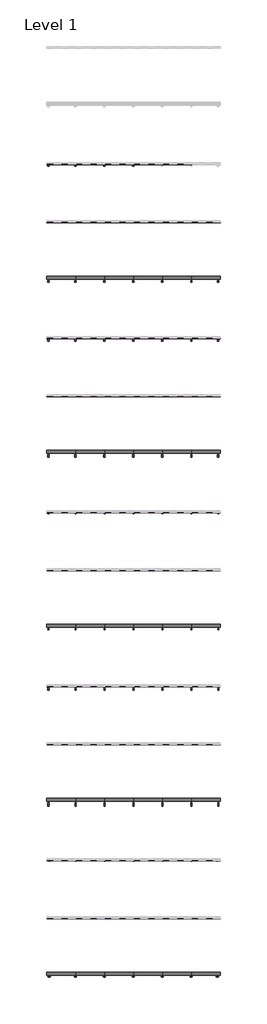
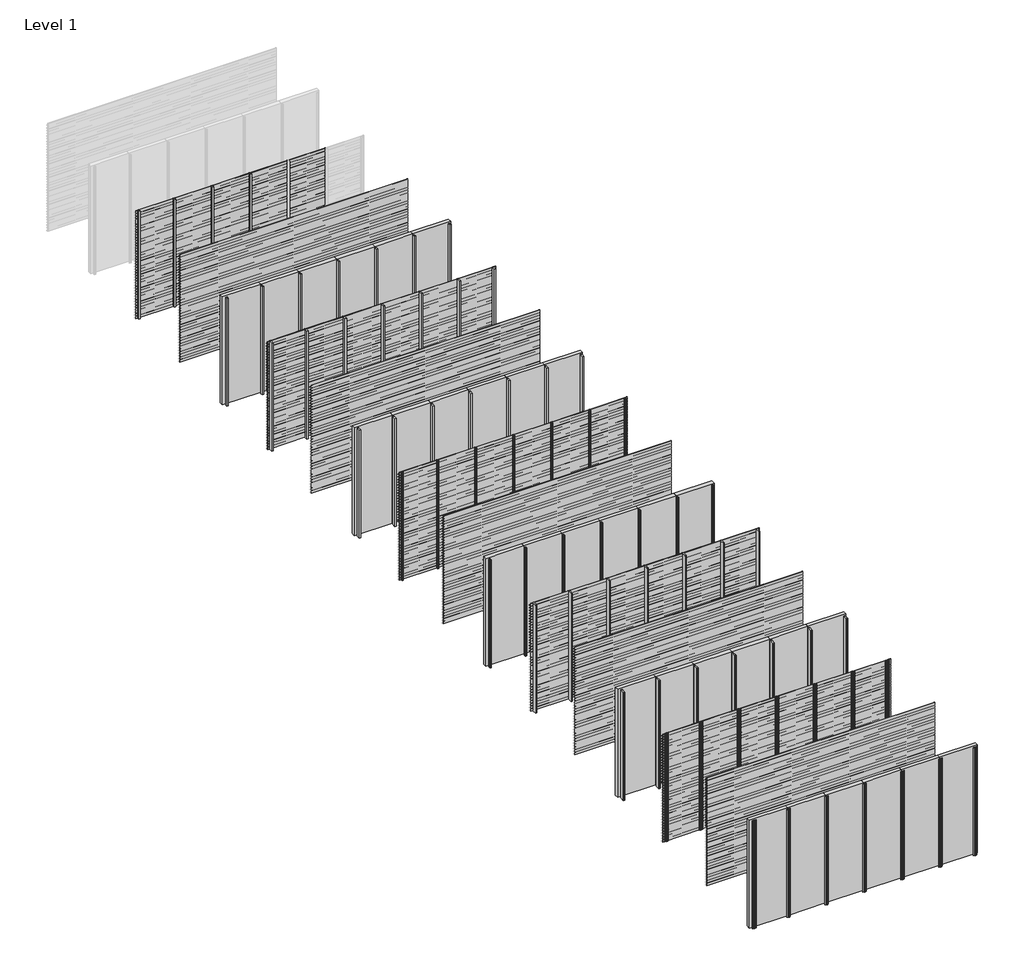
# One storey, part 1 of 35: 67 members, 64 plates.
"""IFC4 building model written with IfcOpenShell, lengths in millimetres."""

from ifc_helpers import new_model, si_unit, origin, origin_with_axes, place, context, project, spatial, polyline, outline, extrude, transform, mapped, element, save
from components import rectangular_mullion_6cf2c509, rectangular_mullion_8b77bd57, rectangular_mullion_2c867e25, rectangular_mullion_7803f5c4, rectangular_mullion_82152e2f, rectangular_mullion_9b796d85, rectangular_mullion_dfb17e98, rectangular_mullion_6132f1f1, rectangular_mullion_8f153c19, rectangular_mullion_5b30f3fd, rectangular_mullion_5e0e8e0a, rectangular_mullion_d2d38772, rectangular_mullion_efb80f74, rectangular_mullion_aaa1fb1b, rectangular_mullion_ea9d012c, empty_system_panel_empty_4f94343c

model = new_model("IFC4")

# Units and contexts
model_context = context("Model", 3, world=origin())
ifc_project = project(units=[si_unit("LENGTHUNIT", "METRE", prefix="MILLI")], contexts=[model_context])

# Site, building, storey
site = spatial("IfcSite", under=ifc_project)
building = spatial("IfcBuilding", under=site)
storey = spatial("IfcBuildingStorey", under=building, Name="Level 1", Elevation=0.0)

# Members
placement = place(None, origin())
rectangular_mullion_shape = rectangular_mullion_6cf2c509(model_context)
element("IfcMember", 1, ObjectType="Rectangular Mullion : NLRS_21_CWM_drager SD.054_Storax", at=placement, inside=storey, context=model_context, shape_type="MappedRepresentation", body=[
    mapped(rectangular_mullion_shape, transform((3000.0, -30000.0, 0.0), x_axis=(-1.0, 0.0, 0.0), y_axis=(0.0, 1.0, 0.0), z_axis=(0.0, 0.0, -1.0))),
])
element("IfcMember", 2, ObjectType="Rectangular Mullion : NLRS_21_CWM_drager SD.054_Storax", at=placement, inside=storey, context=model_context, shape_type="MappedRepresentation", body=[
    mapped(rectangular_mullion_shape, transform((2000.0, -30000.0, 0.0), x_axis=(-1.0, 0.0, 0.0), y_axis=(0.0, 1.0, 0.0), z_axis=(0.0, 0.0, -1.0))),
])
element("IfcMember", 3, ObjectType="Rectangular Mullion : NLRS_21_CWM_drager SD.054_Storax", at=placement, inside=storey, context=model_context, shape_type="MappedRepresentation", body=[
    mapped(rectangular_mullion_shape, transform((1000.0, -30000.0, 0.0), x_axis=(-1.0, 0.0, 0.0), y_axis=(0.0, 1.0, 0.0), z_axis=(0.0, 0.0, -1.0))),
])
element("IfcMember", 4, ObjectType="Rectangular Mullion : NLRS_21_CWM_drager SD.054_Storax", at=placement, inside=storey, context=model_context, shape_type="MappedRepresentation", body=[
    mapped(rectangular_mullion_shape, transform((5000.0, -34000.0, 0.0), x_axis=(-1.0, 0.0, 0.0), y_axis=(0.0, 1.0, 0.0), z_axis=(0.0, 0.0, -1.0))),
])
element("IfcMember", 5, ObjectType="Rectangular Mullion : NLRS_21_CWM_drager SD.054_Storax", at=placement, inside=storey, context=model_context, shape_type="MappedRepresentation", body=[
    mapped(rectangular_mullion_shape, transform((4000.0, -34000.0, 0.0), x_axis=(-1.0, 0.0, 0.0), y_axis=(0.0, 1.0, 0.0), z_axis=(0.0, 0.0, -1.0))),
])
element("IfcMember", 6, ObjectType="Rectangular Mullion : NLRS_21_CWM_drager SD.054_Storax", at=placement, inside=storey, context=model_context, shape_type="MappedRepresentation", body=[
    mapped(rectangular_mullion_shape, transform((3000.0, -34000.0, 0.0), x_axis=(-1.0, 0.0, 0.0), y_axis=(0.0, 1.0, 0.0), z_axis=(0.0, 0.0, -1.0))),
])
element("IfcMember", 7, ObjectType="Rectangular Mullion : NLRS_21_CWM_drager SD.054_Storax", at=placement, inside=storey, context=model_context, shape_type="MappedRepresentation", body=[
    mapped(rectangular_mullion_shape, transform((2000.0, -34000.0, 0.0), x_axis=(-1.0, 0.0, 0.0), y_axis=(0.0, 1.0, 0.0), z_axis=(0.0, 0.0, -1.0))),
])
element("IfcMember", 8, ObjectType="Rectangular Mullion : NLRS_21_CWM_drager SD.054_Storax", at=placement, inside=storey, context=model_context, shape_type="MappedRepresentation", body=[
    mapped(rectangular_mullion_shape, transform((1000.0, -34000.0, 0.0), x_axis=(-1.0, 0.0, 0.0), y_axis=(0.0, 1.0, 0.0), z_axis=(0.0, 0.0, -1.0))),
])
rectangular_mullion_2_shape = rectangular_mullion_8b77bd57(model_context)
element("IfcMember", 9, ObjectType="Rectangular Mullion : NLRS_21_CWM_drager SD.100_Storax", at=placement, inside=storey, context=model_context, shape_type="MappedRepresentation", body=[
    mapped(rectangular_mullion_2_shape, transform((5000.0, -36000.0, 0.0), x_axis=(-1.0, 0.0, 0.0), y_axis=(0.0, 1.0, 0.0), z_axis=(0.0, 0.0, -1.0))),
])
element("IfcMember", 10, ObjectType="Rectangular Mullion : NLRS_21_CWM_drager SD.100_Storax", at=placement, inside=storey, context=model_context, shape_type="MappedRepresentation", body=[
    mapped(rectangular_mullion_2_shape, transform((4000.0, -36000.0, 0.0), x_axis=(-1.0, 0.0, 0.0), y_axis=(0.0, 1.0, 0.0), z_axis=(0.0, 0.0, -1.0))),
])
element("IfcMember", 11, ObjectType="Rectangular Mullion : NLRS_21_CWM_drager SD.100_Storax", at=placement, inside=storey, context=model_context, shape_type="MappedRepresentation", body=[
    mapped(rectangular_mullion_2_shape, transform((3000.0, -36000.0, 0.0), x_axis=(-1.0, 0.0, 0.0), y_axis=(0.0, 1.0, 0.0), z_axis=(0.0, 0.0, -1.0))),
])
element("IfcMember", 12, ObjectType="Rectangular Mullion : NLRS_21_CWM_drager SD.100_Storax", at=placement, inside=storey, context=model_context, shape_type="MappedRepresentation", body=[
    mapped(rectangular_mullion_2_shape, transform((2000.0, -36000.0, 0.0), x_axis=(-1.0, 0.0, 0.0), y_axis=(0.0, 1.0, 0.0), z_axis=(0.0, 0.0, -1.0))),
])
element("IfcMember", 13, ObjectType="Rectangular Mullion : NLRS_21_CWM_drager SD.100_Storax", at=placement, inside=storey, context=model_context, shape_type="MappedRepresentation", body=[
    mapped(rectangular_mullion_2_shape, transform((1000.0, -36000.0, 0.0), x_axis=(-1.0, 0.0, 0.0), y_axis=(0.0, 1.0, 0.0), z_axis=(0.0, 0.0, -1.0))),
])
element("IfcMember", 14, ObjectType="Rectangular Mullion : NLRS_21_CWM_drager SD.100_Storax", at=placement, inside=storey, context=model_context, shape_type="MappedRepresentation", body=[
    mapped(rectangular_mullion_2_shape, transform((5000.0, -40000.0, 0.0), x_axis=(-1.0, 0.0, 0.0), y_axis=(0.0, 1.0, 0.0), z_axis=(0.0, 0.0, -1.0))),
])
element("IfcMember", 15, ObjectType="Rectangular Mullion : NLRS_21_CWM_drager SD.100_Storax", at=placement, inside=storey, context=model_context, shape_type="MappedRepresentation", body=[
    mapped(rectangular_mullion_2_shape, transform((4000.0, -40000.0, 0.0), x_axis=(-1.0, 0.0, 0.0), y_axis=(0.0, 1.0, 0.0), z_axis=(0.0, 0.0, -1.0))),
])
element("IfcMember", 16, ObjectType="Rectangular Mullion : NLRS_21_CWM_drager SD.100_Storax", at=placement, inside=storey, context=model_context, shape_type="MappedRepresentation", body=[
    mapped(rectangular_mullion_2_shape, transform((3000.0, -40000.0, 0.0), x_axis=(-1.0, 0.0, 0.0), y_axis=(0.0, 1.0, 0.0), z_axis=(0.0, 0.0, -1.0))),
])
element("IfcMember", 17, ObjectType="Rectangular Mullion : NLRS_21_CWM_drager SD.100_Storax", at=placement, inside=storey, context=model_context, shape_type="MappedRepresentation", body=[
    mapped(rectangular_mullion_2_shape, transform((2000.0, -40000.0, 0.0), x_axis=(-1.0, 0.0, 0.0), y_axis=(0.0, 1.0, 0.0), z_axis=(0.0, 0.0, -1.0))),
])
element("IfcMember", 18, ObjectType="Rectangular Mullion : NLRS_21_CWM_drager SD.100_Storax", at=placement, inside=storey, context=model_context, shape_type="MappedRepresentation", body=[
    mapped(rectangular_mullion_2_shape, transform((1000.0, -40000.0, 0.0), x_axis=(-1.0, 0.0, 0.0), y_axis=(0.0, 1.0, 0.0), z_axis=(0.0, 0.0, -1.0))),
])
rectangular_mullion_3_shape = rectangular_mullion_2c867e25(model_context)
element("IfcMember", 19, ObjectType="Rectangular Mullion : NLRS_21_CWM_drager LD.0440_Storax", at=placement, inside=storey, context=model_context, shape_type="MappedRepresentation", body=[
    mapped(rectangular_mullion_3_shape, transform((5000.0, -42000.0, 0.0), x_axis=(-1.0, 0.0, 0.0), y_axis=(0.0, 1.0, 0.0), z_axis=(0.0, 0.0, -1.0))),
])
element("IfcMember", 20, ObjectType="Rectangular Mullion : NLRS_21_CWM_drager LD.0440_Storax", at=placement, inside=storey, context=model_context, shape_type="MappedRepresentation", body=[
    mapped(rectangular_mullion_3_shape, transform((4000.0, -42000.0, 0.0), x_axis=(-1.0, 0.0, 0.0), y_axis=(0.0, 1.0, 0.0), z_axis=(0.0, 0.0, -1.0))),
])
element("IfcMember", 21, ObjectType="Rectangular Mullion : NLRS_21_CWM_drager LD.0440_Storax", at=placement, inside=storey, context=model_context, shape_type="MappedRepresentation", body=[
    mapped(rectangular_mullion_3_shape, transform((3000.0, -42000.0, 0.0), x_axis=(-1.0, 0.0, 0.0), y_axis=(0.0, 1.0, 0.0), z_axis=(0.0, 0.0, -1.0))),
])
element("IfcMember", 22, ObjectType="Rectangular Mullion : NLRS_21_CWM_drager LD.0440_Storax", at=placement, inside=storey, context=model_context, shape_type="MappedRepresentation", body=[
    mapped(rectangular_mullion_3_shape, transform((2000.0, -42000.0, 0.0), x_axis=(-1.0, 0.0, 0.0), y_axis=(0.0, 1.0, 0.0), z_axis=(0.0, 0.0, -1.0))),
])
element("IfcMember", 23, ObjectType="Rectangular Mullion : NLRS_21_CWM_drager LD.0440_Storax", at=placement, inside=storey, context=model_context, shape_type="MappedRepresentation", body=[
    mapped(rectangular_mullion_3_shape, transform((1000.0, -42000.0, 0.0), x_axis=(-1.0, 0.0, 0.0), y_axis=(0.0, 1.0, 0.0), z_axis=(0.0, 0.0, -1.0))),
])
element("IfcMember", 24, ObjectType="Rectangular Mullion : NLRS_21_CWM_drager LD.0440_Storax", at=placement, inside=storey, context=model_context, shape_type="MappedRepresentation", body=[
    mapped(rectangular_mullion_3_shape, transform((5000.0, -46000.0, 0.0), x_axis=(-1.0, 0.0, 0.0), y_axis=(0.0, 1.0, 0.0), z_axis=(0.0, 0.0, -1.0))),
])
element("IfcMember", 25, ObjectType="Rectangular Mullion : NLRS_21_CWM_drager LD.0440_Storax", at=placement, inside=storey, context=model_context, shape_type="MappedRepresentation", body=[
    mapped(rectangular_mullion_3_shape, transform((4000.0, -46000.0, 0.0), x_axis=(-1.0, 0.0, 0.0), y_axis=(0.0, 1.0, 0.0), z_axis=(0.0, 0.0, -1.0))),
])
element("IfcMember", 26, ObjectType="Rectangular Mullion : NLRS_21_CWM_drager LD.0440_Storax", at=placement, inside=storey, context=model_context, shape_type="MappedRepresentation", body=[
    mapped(rectangular_mullion_3_shape, transform((3000.0, -46000.0, 0.0), x_axis=(-1.0, 0.0, 0.0), y_axis=(0.0, 1.0, 0.0), z_axis=(0.0, 0.0, -1.0))),
])
element("IfcMember", 27, ObjectType="Rectangular Mullion : NLRS_21_CWM_drager LD.0440_Storax", at=placement, inside=storey, context=model_context, shape_type="MappedRepresentation", body=[
    mapped(rectangular_mullion_3_shape, transform((2000.0, -46000.0, 0.0), x_axis=(-1.0, 0.0, 0.0), y_axis=(0.0, 1.0, 0.0), z_axis=(0.0, 0.0, -1.0))),
])
element("IfcMember", 28, ObjectType="Rectangular Mullion : NLRS_21_CWM_drager LD.0440_Storax", at=placement, inside=storey, context=model_context, shape_type="MappedRepresentation", body=[
    mapped(rectangular_mullion_3_shape, transform((1000.0, -46000.0, 0.0), x_axis=(-1.0, 0.0, 0.0), y_axis=(0.0, 1.0, 0.0), z_axis=(0.0, 0.0, -1.0))),
])
rectangular_mullion_4_shape = rectangular_mullion_7803f5c4(model_context)
element("IfcMember", 29, ObjectType="Rectangular Mullion : NLRS_21_CWM_drager LD.1250_Storax", at=placement, inside=storey, context=model_context, shape_type="MappedRepresentation", body=[
    mapped(rectangular_mullion_4_shape, transform((5000.0, -48000.0, 0.0), x_axis=(-1.0, 0.0, 0.0), y_axis=(0.0, 1.0, 0.0), z_axis=(0.0, 0.0, -1.0))),
])
element("IfcMember", 30, ObjectType="Rectangular Mullion : NLRS_21_CWM_drager LD.1250_Storax", at=placement, inside=storey, context=model_context, shape_type="MappedRepresentation", body=[
    mapped(rectangular_mullion_4_shape, transform((4000.0, -48000.0, 0.0), x_axis=(-1.0, 0.0, 0.0), y_axis=(0.0, 1.0, 0.0), z_axis=(0.0, 0.0, -1.0))),
])
element("IfcMember", 31, ObjectType="Rectangular Mullion : NLRS_21_CWM_drager LD.1250_Storax", at=placement, inside=storey, context=model_context, shape_type="MappedRepresentation", body=[
    mapped(rectangular_mullion_4_shape, transform((3000.0, -48000.0, 0.0), x_axis=(-1.0, 0.0, 0.0), y_axis=(0.0, 1.0, 0.0), z_axis=(0.0, 0.0, -1.0))),
])
element("IfcMember", 32, ObjectType="Rectangular Mullion : NLRS_21_CWM_drager LD.1250_Storax", at=placement, inside=storey, context=model_context, shape_type="MappedRepresentation", body=[
    mapped(rectangular_mullion_4_shape, transform((2000.0, -48000.0, 0.0), x_axis=(-1.0, 0.0, 0.0), y_axis=(0.0, 1.0, 0.0), z_axis=(0.0, 0.0, -1.0))),
])
element("IfcMember", 33, ObjectType="Rectangular Mullion : NLRS_21_CWM_drager LD.1250_Storax", at=placement, inside=storey, context=model_context, shape_type="MappedRepresentation", body=[
    mapped(rectangular_mullion_4_shape, transform((1000.0, -48000.0, 0.0), x_axis=(-1.0, 0.0, 0.0), y_axis=(0.0, 1.0, 0.0), z_axis=(0.0, 0.0, -1.0))),
])
element("IfcMember", 34, ObjectType="Rectangular Mullion : NLRS_21_CWM_drager LD.1250_Storax", at=placement, inside=storey, context=model_context, shape_type="MappedRepresentation", body=[
    mapped(rectangular_mullion_4_shape, transform((5000.0, -52000.0, 0.0), x_axis=(-1.0, 0.0, 0.0), y_axis=(0.0, 1.0, 0.0), z_axis=(0.0, 0.0, -1.0))),
])
element("IfcMember", 35, ObjectType="Rectangular Mullion : NLRS_21_CWM_drager LD.1250_Storax", at=placement, inside=storey, context=model_context, shape_type="MappedRepresentation", body=[
    mapped(rectangular_mullion_4_shape, transform((4000.0, -52000.0, 0.0), x_axis=(-1.0, 0.0, 0.0), y_axis=(0.0, 1.0, 0.0), z_axis=(0.0, 0.0, -1.0))),
])
element("IfcMember", 36, ObjectType="Rectangular Mullion : NLRS_21_CWM_drager LD.1250_Storax", at=placement, inside=storey, context=model_context, shape_type="MappedRepresentation", body=[
    mapped(rectangular_mullion_4_shape, transform((3000.0, -52000.0, 0.0), x_axis=(-1.0, 0.0, 0.0), y_axis=(0.0, 1.0, 0.0), z_axis=(0.0, 0.0, -1.0))),
])
element("IfcMember", 37, ObjectType="Rectangular Mullion : NLRS_21_CWM_drager LD.1250_Storax", at=placement, inside=storey, context=model_context, shape_type="MappedRepresentation", body=[
    mapped(rectangular_mullion_4_shape, transform((2000.0, -52000.0, 0.0), x_axis=(-1.0, 0.0, 0.0), y_axis=(0.0, 1.0, 0.0), z_axis=(0.0, 0.0, -1.0))),
])
element("IfcMember", 38, ObjectType="Rectangular Mullion : NLRS_21_CWM_drager LD.1250_Storax", at=placement, inside=storey, context=model_context, shape_type="MappedRepresentation", body=[
    mapped(rectangular_mullion_4_shape, transform((1000.0, -52000.0, 0.0), x_axis=(-1.0, 0.0, 0.0), y_axis=(0.0, 1.0, 0.0), z_axis=(0.0, 0.0, -1.0))),
])
rectangular_mullion_5_shape = rectangular_mullion_82152e2f(model_context)
element("IfcMember", 39, ObjectType="Rectangular Mullion : NLRS_21_CWM_drager LD.0240_Storax", at=placement, inside=storey, context=model_context, shape_type="MappedRepresentation", body=[
    mapped(rectangular_mullion_5_shape, transform((5000.0, -54000.0, 0.0), x_axis=(-1.0, 0.0, 0.0), y_axis=(0.0, 1.0, 0.0), z_axis=(0.0, 0.0, -1.0))),
])
element("IfcMember", 40, ObjectType="Rectangular Mullion : NLRS_21_CWM_drager LD.0240_Storax", at=placement, inside=storey, context=model_context, shape_type="MappedRepresentation", body=[
    mapped(rectangular_mullion_5_shape, transform((4000.0, -54000.0, 0.0), x_axis=(-1.0, 0.0, 0.0), y_axis=(0.0, 1.0, 0.0), z_axis=(0.0, 0.0, -1.0))),
])
element("IfcMember", 41, ObjectType="Rectangular Mullion : NLRS_21_CWM_drager LD.0240_Storax", at=placement, inside=storey, context=model_context, shape_type="MappedRepresentation", body=[
    mapped(rectangular_mullion_5_shape, transform((3000.0, -54000.0, 0.0), x_axis=(-1.0, 0.0, 0.0), y_axis=(0.0, 1.0, 0.0), z_axis=(0.0, 0.0, -1.0))),
])
element("IfcMember", 42, ObjectType="Rectangular Mullion : NLRS_21_CWM_drager LD.0240_Storax", at=placement, inside=storey, context=model_context, shape_type="MappedRepresentation", body=[
    mapped(rectangular_mullion_5_shape, transform((2000.0, -54000.0, 0.0), x_axis=(-1.0, 0.0, 0.0), y_axis=(0.0, 1.0, 0.0), z_axis=(0.0, 0.0, -1.0))),
])
element("IfcMember", 43, ObjectType="Rectangular Mullion : NLRS_21_CWM_drager LD.0240_Storax", at=placement, inside=storey, context=model_context, shape_type="MappedRepresentation", body=[
    mapped(rectangular_mullion_5_shape, transform((1000.0, -54000.0, 0.0), x_axis=(-1.0, 0.0, 0.0), y_axis=(0.0, 1.0, 0.0), z_axis=(0.0, 0.0, -1.0))),
])
element("IfcMember", 44, ObjectType="Rectangular Mullion : NLRS_21_CWM_drager LD.0240_Storax", at=placement, inside=storey, context=model_context, shape_type="MappedRepresentation", body=[
    mapped(rectangular_mullion_5_shape, transform((5000.0, -58000.0, 0.0), x_axis=(-1.0, 0.0, 0.0), y_axis=(0.0, 1.0, 0.0), z_axis=(0.0, 0.0, -1.0))),
])
element("IfcMember", 45, ObjectType="Rectangular Mullion : NLRS_21_CWM_drager LD.0240_Storax", at=placement, inside=storey, context=model_context, shape_type="MappedRepresentation", body=[
    mapped(rectangular_mullion_5_shape, transform((4000.0, -58000.0, 0.0), x_axis=(-1.0, 0.0, 0.0), y_axis=(0.0, 1.0, 0.0), z_axis=(0.0, 0.0, -1.0))),
])
element("IfcMember", 46, ObjectType="Rectangular Mullion : NLRS_21_CWM_drager LD.0240_Storax", at=placement, inside=storey, context=model_context, shape_type="MappedRepresentation", body=[
    mapped(rectangular_mullion_5_shape, transform((3000.0, -58000.0, 0.0), x_axis=(-1.0, 0.0, 0.0), y_axis=(0.0, 1.0, 0.0), z_axis=(0.0, 0.0, -1.0))),
])
element("IfcMember", 47, ObjectType="Rectangular Mullion : NLRS_21_CWM_drager LD.0240_Storax", at=placement, inside=storey, context=model_context, shape_type="MappedRepresentation", body=[
    mapped(rectangular_mullion_5_shape, transform((2000.0, -58000.0, 0.0), x_axis=(-1.0, 0.0, 0.0), y_axis=(0.0, 1.0, 0.0), z_axis=(0.0, 0.0, -1.0))),
])
element("IfcMember", 48, ObjectType="Rectangular Mullion : NLRS_21_CWM_drager LD.0240_Storax", at=placement, inside=storey, context=model_context, shape_type="MappedRepresentation", body=[
    mapped(rectangular_mullion_5_shape, transform((1000.0, -58000.0, 0.0), x_axis=(-1.0, 0.0, 0.0), y_axis=(0.0, 1.0, 0.0), z_axis=(0.0, 0.0, -1.0))),
])
rectangular_mullion_6_shape = rectangular_mullion_9b796d85(model_context)
element("IfcMember", 49, ObjectType="Rectangular Mullion : NLRS_21_CWM_drager SD.054 - links_Storax", at=placement, inside=storey, context=model_context, shape_type="MappedRepresentation", body=[
    mapped(rectangular_mullion_6_shape, transform((0.0, -30000.0, 0.0), x_axis=(-1.0, 0.0, 0.0), y_axis=(0.0, 1.0, 0.0), z_axis=(0.0, 0.0, -1.0))),
])
element("IfcMember", 50, ObjectType="Rectangular Mullion : NLRS_21_CWM_drager SD.054 - links_Storax", at=placement, inside=storey, context=model_context, shape_type="MappedRepresentation", body=[
    mapped(rectangular_mullion_6_shape, transform((0.0, -34000.0, 0.0), x_axis=(-1.0, 0.0, 0.0), y_axis=(0.0, 1.0, 0.0), z_axis=(0.0, 0.0, -1.0))),
])
rectangular_mullion_7_shape = rectangular_mullion_dfb17e98(model_context)
element("IfcMember", 51, ObjectType="Rectangular Mullion : NLRS_21_CWM_drager SD.054 - rechts_Storax", at=placement, inside=storey, context=model_context, shape_type="MappedRepresentation", body=[
    mapped(rectangular_mullion_7_shape, transform((6000.0, -34000.0, 3000.0), x_axis=(1.0, 0.0, 0.0), y_axis=(0.0, 1.0, 0.0), z_axis=(0.0, 0.0, 1.0))),
])
rectangular_mullion_8_shape = rectangular_mullion_6132f1f1(model_context)
element("IfcMember", 52, ObjectType="Rectangular Mullion : NLRS_21_CWM_drager SD.100 - links_Storax", at=placement, inside=storey, context=model_context, shape_type="MappedRepresentation", body=[
    mapped(rectangular_mullion_8_shape, transform((0.0, -36000.0, 0.0), x_axis=(-1.0, 0.0, 0.0), y_axis=(0.0, 1.0, 0.0), z_axis=(0.0, 0.0, -1.0))),
])
element("IfcMember", 53, ObjectType="Rectangular Mullion : NLRS_21_CWM_drager SD.100 - links_Storax", at=placement, inside=storey, context=model_context, shape_type="MappedRepresentation", body=[
    mapped(rectangular_mullion_8_shape, transform((0.0, -40000.0, 0.0), x_axis=(-1.0, 0.0, 0.0), y_axis=(0.0, 1.0, 0.0), z_axis=(0.0, 0.0, -1.0))),
])
rectangular_mullion_9_shape = rectangular_mullion_8f153c19(model_context)
element("IfcMember", 54, ObjectType="Rectangular Mullion : NLRS_21_CWM_drager SD.100 - rechts_Storax", at=placement, inside=storey, context=model_context, shape_type="MappedRepresentation", body=[
    mapped(rectangular_mullion_9_shape, transform((6000.0, -36000.0, 3000.0), x_axis=(1.0, 0.0, 0.0), y_axis=(0.0, 1.0, 0.0), z_axis=(0.0, 0.0, 1.0))),
])
element("IfcMember", 55, ObjectType="Rectangular Mullion : NLRS_21_CWM_drager SD.100 - rechts_Storax", at=placement, inside=storey, context=model_context, shape_type="MappedRepresentation", body=[
    mapped(rectangular_mullion_9_shape, transform((6000.0, -40000.0, 3000.0), x_axis=(1.0, 0.0, 0.0), y_axis=(0.0, 1.0, 0.0), z_axis=(0.0, 0.0, 1.0))),
])
rectangular_mullion_10_shape = rectangular_mullion_5b30f3fd(model_context)
element("IfcMember", 56, ObjectType="Rectangular Mullion : NLRS_21_CWM_drager LD.0440 - links_Storax", at=placement, inside=storey, context=model_context, shape_type="MappedRepresentation", body=[
    mapped(rectangular_mullion_10_shape, transform((0.0, -42000.0, 0.0), x_axis=(-1.0, 0.0, 0.0), y_axis=(0.0, 1.0, 0.0), z_axis=(0.0, 0.0, -1.0))),
])
element("IfcMember", 57, ObjectType="Rectangular Mullion : NLRS_21_CWM_drager LD.0440 - links_Storax", at=placement, inside=storey, context=model_context, shape_type="MappedRepresentation", body=[
    mapped(rectangular_mullion_10_shape, transform((0.0, -46000.0, 0.0), x_axis=(-1.0, 0.0, 0.0), y_axis=(0.0, 1.0, 0.0), z_axis=(0.0, 0.0, -1.0))),
])
rectangular_mullion_11_shape = rectangular_mullion_5e0e8e0a(model_context)
element("IfcMember", 58, ObjectType="Rectangular Mullion : NLRS_21_CWM_drager LD.0440 - rechts_Storax", at=placement, inside=storey, context=model_context, shape_type="MappedRepresentation", body=[
    mapped(rectangular_mullion_11_shape, transform((6000.0, -42000.0, 3000.0), x_axis=(1.0, 0.0, 0.0), y_axis=(0.0, 1.0, 0.0), z_axis=(0.0, 0.0, 1.0))),
])
element("IfcMember", 59, ObjectType="Rectangular Mullion : NLRS_21_CWM_drager LD.0440 - rechts_Storax", at=placement, inside=storey, context=model_context, shape_type="MappedRepresentation", body=[
    mapped(rectangular_mullion_11_shape, transform((6000.0, -46000.0, 3000.0), x_axis=(1.0, 0.0, 0.0), y_axis=(0.0, 1.0, 0.0), z_axis=(0.0, 0.0, 1.0))),
])
rectangular_mullion_12_shape = rectangular_mullion_d2d38772(model_context)
element("IfcMember", 60, ObjectType="Rectangular Mullion : NLRS_21_CWM_drager LD.1250 - links_Storax", at=placement, inside=storey, context=model_context, shape_type="MappedRepresentation", body=[
    mapped(rectangular_mullion_12_shape, transform((0.0, -48000.0, 0.0), x_axis=(-1.0, 0.0, 0.0), y_axis=(0.0, 1.0, 0.0), z_axis=(0.0, 0.0, -1.0))),
])
element("IfcMember", 61, ObjectType="Rectangular Mullion : NLRS_21_CWM_drager LD.1250 - links_Storax", at=placement, inside=storey, context=model_context, shape_type="MappedRepresentation", body=[
    mapped(rectangular_mullion_12_shape, transform((0.0, -52000.0, 0.0), x_axis=(-1.0, 0.0, 0.0), y_axis=(0.0, 1.0, 0.0), z_axis=(0.0, 0.0, -1.0))),
])
rectangular_mullion_13_shape = rectangular_mullion_efb80f74(model_context)
element("IfcMember", 62, ObjectType="Rectangular Mullion : NLRS_21_CWM_drager LD.1250 - rechts_Storax", at=placement, inside=storey, context=model_context, shape_type="MappedRepresentation", body=[
    mapped(rectangular_mullion_13_shape, transform((6000.0, -48000.0, 3000.0), x_axis=(1.0, 0.0, 0.0), y_axis=(0.0, 1.0, 0.0), z_axis=(0.0, 0.0, 1.0))),
])
element("IfcMember", 63, ObjectType="Rectangular Mullion : NLRS_21_CWM_drager LD.1250 - rechts_Storax", at=placement, inside=storey, context=model_context, shape_type="MappedRepresentation", body=[
    mapped(rectangular_mullion_13_shape, transform((6000.0, -52000.0, 3000.0), x_axis=(1.0, 0.0, 0.0), y_axis=(0.0, 1.0, 0.0), z_axis=(0.0, 0.0, 1.0))),
])
rectangular_mullion_14_shape = rectangular_mullion_aaa1fb1b(model_context)
element("IfcMember", 64, ObjectType="Rectangular Mullion : NLRS_21_CWM_drager LD.0240 - links_Storax", at=placement, inside=storey, context=model_context, shape_type="MappedRepresentation", body=[
    mapped(rectangular_mullion_14_shape, transform((0.0, -54000.0, 0.0), x_axis=(-1.0, 0.0, 0.0), y_axis=(0.0, 1.0, 0.0), z_axis=(0.0, 0.0, -1.0))),
])
element("IfcMember", 65, ObjectType="Rectangular Mullion : NLRS_21_CWM_drager LD.0240 - links_Storax", at=placement, inside=storey, context=model_context, shape_type="MappedRepresentation", body=[
    mapped(rectangular_mullion_14_shape, transform((0.0, -58000.0, 0.0), x_axis=(-1.0, 0.0, 0.0), y_axis=(0.0, 1.0, 0.0), z_axis=(0.0, 0.0, -1.0))),
])
rectangular_mullion_15_shape = rectangular_mullion_ea9d012c(model_context)
element("IfcMember", 66, ObjectType="Rectangular Mullion : NLRS_21_CWM_drager LD.0240 - rechts_Storax", at=placement, inside=storey, context=model_context, shape_type="MappedRepresentation", body=[
    mapped(rectangular_mullion_15_shape, transform((6000.0, -54000.0, 3000.0), x_axis=(1.0, 0.0, 0.0), y_axis=(0.0, 1.0, 0.0), z_axis=(0.0, 0.0, 1.0))),
])
element("IfcMember", 67, ObjectType="Rectangular Mullion : NLRS_21_CWM_drager LD.0240 - rechts_Storax", at=placement, inside=storey, context=model_context, shape_type="MappedRepresentation", body=[
    mapped(rectangular_mullion_15_shape, transform((6000.0, -58000.0, 3000.0), x_axis=(1.0, 0.0, 0.0), y_axis=(0.0, 1.0, 0.0), z_axis=(0.0, 0.0, 1.0))),
])

# Plates
element("IfcPlate", 68, ObjectType="NLRS_21_WA_lamellenwand Linius - L.075.01_Storax", at=placement, inside=storey, context=model_context, shape_type="SweptSolid", body=[
    extrude(outline(polyline([(0.0, -29999.0), (1000.0, -29999.0), (1000.0, -30001.0), (0.0, -30001.0), (0.0, -29999.0)])), origin_with_axes(), (0.0, 0.0, 1.0), 3000.0),
])
element("IfcPlate", 69, ObjectType="NLRS_21_WA_lamellenwand Linius - L.075.01_Storax", at=placement, inside=storey, context=model_context, shape_type="SweptSolid", body=[
    extrude(outline(polyline([(1000.0, -29999.0), (2000.0, -29999.0), (2000.0, -30001.0), (1000.0, -30001.0), (1000.0, -29999.0)])), origin_with_axes(), (0.0, 0.0, 1.0), 3000.0),
])
element("IfcPlate", 70, ObjectType="NLRS_21_WA_lamellenwand Linius - L.075.01_Storax", at=placement, inside=storey, context=model_context, shape_type="SweptSolid", body=[
    extrude(outline(polyline([(2000.0, -29999.0), (3000.0, -29999.0), (3000.0, -30001.0), (2000.0, -30001.0), (2000.0, -29999.0)])), origin_with_axes(), (0.0, 0.0, 1.0), 3000.0),
])
element("IfcPlate", 71, ObjectType="NLRS_21_WA_lamellenwand Linius - L.075.01_Storax", at=placement, inside=storey, context=model_context, shape_type="SweptSolid", body=[
    extrude(outline(polyline([(3000.0, -29999.0), (4000.0, -29999.0), (4000.0, -30001.0), (3000.0, -30001.0), (3000.0, -29999.0)])), origin_with_axes(), (0.0, 0.0, 1.0), 3000.0),
])
element("IfcPlate", 72, ObjectType="NLRS_21_WA_lamellenwand Linius - L.075.01_Storax", at=placement, inside=storey, context=model_context, shape_type="SweptSolid", body=[
    extrude(outline(polyline([(4000.0, -29999.0), (5000.0, -29999.0), (5000.0, -30001.0), (4000.0, -30001.0), (4000.0, -29999.0)])), origin_with_axes(), (0.0, 0.0, 1.0), 3000.0),
])
element("IfcPlate", 73, ObjectType="NLRS_21_WA_lamellenwand Linius - L.075.01_Storax", at=placement, inside=storey, context=model_context, shape_type="SweptSolid", body=[
    extrude(outline(polyline([(0.0, -31999.0), (6000.0, -31999.0), (6000.0, -32001.0), (0.0, -32001.0), (0.0, -31999.0)])), origin_with_axes(), (0.0, 0.0, 1.0), 3000.0),
])
element("IfcPlate", 74, ObjectType="NLRS_21_WA_lamellenwand Linius - L.075.01_Storax", at=placement, inside=storey, context=model_context, shape_type="SweptSolid", body=[
    extrude(outline(polyline([(0.0, -35999.0), (1000.0, -35999.0), (1000.0, -36001.0), (0.0, -36001.0), (0.0, -35999.0)])), origin_with_axes(), (0.0, 0.0, 1.0), 3000.0),
])
element("IfcPlate", 75, ObjectType="NLRS_21_WA_lamellenwand Linius - L.075.01_Storax", at=placement, inside=storey, context=model_context, shape_type="SweptSolid", body=[
    extrude(outline(polyline([(1000.0, -35999.0), (2000.0, -35999.0), (2000.0, -36001.0), (1000.0, -36001.0), (1000.0, -35999.0)])), origin_with_axes(), (0.0, 0.0, 1.0), 3000.0),
])
element("IfcPlate", 76, ObjectType="NLRS_21_WA_lamellenwand Linius - L.075.01_Storax", at=placement, inside=storey, context=model_context, shape_type="SweptSolid", body=[
    extrude(outline(polyline([(2000.0, -35999.0), (3000.0, -35999.0), (3000.0, -36001.0), (2000.0, -36001.0), (2000.0, -35999.0)])), origin_with_axes(), (0.0, 0.0, 1.0), 3000.0),
])
element("IfcPlate", 77, ObjectType="NLRS_21_WA_lamellenwand Linius - L.075.01_Storax", at=placement, inside=storey, context=model_context, shape_type="SweptSolid", body=[
    extrude(outline(polyline([(3000.0, -35999.0), (4000.0, -35999.0), (4000.0, -36001.0), (3000.0, -36001.0), (3000.0, -35999.0)])), origin_with_axes(), (0.0, 0.0, 1.0), 3000.0),
])
element("IfcPlate", 78, ObjectType="NLRS_21_WA_lamellenwand Linius - L.075.01_Storax", at=placement, inside=storey, context=model_context, shape_type="SweptSolid", body=[
    extrude(outline(polyline([(4000.0, -35999.0), (5000.0, -35999.0), (5000.0, -36001.0), (4000.0, -36001.0), (4000.0, -35999.0)])), origin_with_axes(), (0.0, 0.0, 1.0), 3000.0),
])
element("IfcPlate", 79, ObjectType="NLRS_21_WA_lamellenwand Linius - L.075.01_Storax", at=placement, inside=storey, context=model_context, shape_type="SweptSolid", body=[
    extrude(outline(polyline([(5000.0, -35999.0), (6000.0, -35999.0), (6000.0, -36001.0), (5000.0, -36001.0), (5000.0, -35999.0)])), origin_with_axes(), (0.0, 0.0, 1.0), 3000.0),
])
element("IfcPlate", 80, ObjectType="NLRS_21_WA_lamellenwand Linius - L.075.01_Storax", at=placement, inside=storey, context=model_context, shape_type="SweptSolid", body=[
    extrude(outline(polyline([(0.0, -37999.0), (6000.0, -37999.0), (6000.0, -38001.0), (0.0, -38001.0), (0.0, -37999.0)])), origin_with_axes(), (0.0, 0.0, 1.0), 3000.0),
])
element("IfcPlate", 81, ObjectType="NLRS_21_WA_lamellenwand Linius - L.075.01_Storax", at=placement, inside=storey, context=model_context, shape_type="SweptSolid", body=[
    extrude(outline(polyline([(0.0, -41999.0), (1000.0, -41999.0), (1000.0, -42001.0), (0.0, -42001.0), (0.0, -41999.0)])), origin_with_axes(), (0.0, 0.0, 1.0), 3000.0),
])
element("IfcPlate", 82, ObjectType="NLRS_21_WA_lamellenwand Linius - L.075.01_Storax", at=placement, inside=storey, context=model_context, shape_type="SweptSolid", body=[
    extrude(outline(polyline([(1000.0, -41999.0), (2000.0, -41999.0), (2000.0, -42001.0), (1000.0, -42001.0), (1000.0, -41999.0)])), origin_with_axes(), (0.0, 0.0, 1.0), 3000.0),
])
element("IfcPlate", 83, ObjectType="NLRS_21_WA_lamellenwand Linius - L.075.01_Storax", at=placement, inside=storey, context=model_context, shape_type="SweptSolid", body=[
    extrude(outline(polyline([(2000.0, -41999.0), (3000.0, -41999.0), (3000.0, -42001.0), (2000.0, -42001.0), (2000.0, -41999.0)])), origin_with_axes(), (0.0, 0.0, 1.0), 3000.0),
])
element("IfcPlate", 84, ObjectType="NLRS_21_WA_lamellenwand Linius - L.075.01_Storax", at=placement, inside=storey, context=model_context, shape_type="SweptSolid", body=[
    extrude(outline(polyline([(3000.0, -41999.0), (4000.0, -41999.0), (4000.0, -42001.0), (3000.0, -42001.0), (3000.0, -41999.0)])), origin_with_axes(), (0.0, 0.0, 1.0), 3000.0),
])
element("IfcPlate", 85, ObjectType="NLRS_21_WA_lamellenwand Linius - L.075.01_Storax", at=placement, inside=storey, context=model_context, shape_type="SweptSolid", body=[
    extrude(outline(polyline([(4000.0, -41999.0), (5000.0, -41999.0), (5000.0, -42001.0), (4000.0, -42001.0), (4000.0, -41999.0)])), origin_with_axes(), (0.0, 0.0, 1.0), 3000.0),
])
element("IfcPlate", 86, ObjectType="NLRS_21_WA_lamellenwand Linius - L.075.01_Storax", at=placement, inside=storey, context=model_context, shape_type="SweptSolid", body=[
    extrude(outline(polyline([(5000.0, -41999.0), (6000.0, -41999.0), (6000.0, -42001.0), (5000.0, -42001.0), (5000.0, -41999.0)])), origin_with_axes(), (0.0, 0.0, 1.0), 3000.0),
])
element("IfcPlate", 87, ObjectType="NLRS_21_WA_lamellenwand Linius - L.075.01_Storax", at=placement, inside=storey, context=model_context, shape_type="SweptSolid", body=[
    extrude(outline(polyline([(0.0, -43999.0), (6000.0, -43999.0), (6000.0, -44001.0), (0.0, -44001.0), (0.0, -43999.0)])), origin_with_axes(), (0.0, 0.0, 1.0), 3000.0),
])
element("IfcPlate", 88, ObjectType="NLRS_21_WA_lamellenwand Linius - L.075.01_Storax", at=placement, inside=storey, context=model_context, shape_type="SweptSolid", body=[
    extrude(outline(polyline([(0.0, -47999.0), (1000.0, -47999.0), (1000.0, -48001.0), (0.0, -48001.0), (0.0, -47999.0)])), origin_with_axes(), (0.0, 0.0, 1.0), 3000.0),
])
element("IfcPlate", 89, ObjectType="NLRS_21_WA_lamellenwand Linius - L.075.01_Storax", at=placement, inside=storey, context=model_context, shape_type="SweptSolid", body=[
    extrude(outline(polyline([(1000.0, -47999.0), (2000.0, -47999.0), (2000.0, -48001.0), (1000.0, -48001.0), (1000.0, -47999.0)])), origin_with_axes(), (0.0, 0.0, 1.0), 3000.0),
])
element("IfcPlate", 90, ObjectType="NLRS_21_WA_lamellenwand Linius - L.075.01_Storax", at=placement, inside=storey, context=model_context, shape_type="SweptSolid", body=[
    extrude(outline(polyline([(2000.0, -47999.0), (3000.0, -47999.0), (3000.0, -48001.0), (2000.0, -48001.0), (2000.0, -47999.0)])), origin_with_axes(), (0.0, 0.0, 1.0), 3000.0),
])
element("IfcPlate", 91, ObjectType="NLRS_21_WA_lamellenwand Linius - L.075.01_Storax", at=placement, inside=storey, context=model_context, shape_type="SweptSolid", body=[
    extrude(outline(polyline([(3000.0, -47999.0), (4000.0, -47999.0), (4000.0, -48001.0), (3000.0, -48001.0), (3000.0, -47999.0)])), origin_with_axes(), (0.0, 0.0, 1.0), 3000.0),
])
element("IfcPlate", 92, ObjectType="NLRS_21_WA_lamellenwand Linius - L.075.01_Storax", at=placement, inside=storey, context=model_context, shape_type="SweptSolid", body=[
    extrude(outline(polyline([(4000.0, -47999.0), (5000.0, -47999.0), (5000.0, -48001.0), (4000.0, -48001.0), (4000.0, -47999.0)])), origin_with_axes(), (0.0, 0.0, 1.0), 3000.0),
])
element("IfcPlate", 93, ObjectType="NLRS_21_WA_lamellenwand Linius - L.075.01_Storax", at=placement, inside=storey, context=model_context, shape_type="SweptSolid", body=[
    extrude(outline(polyline([(5000.0, -47999.0), (6000.0, -47999.0), (6000.0, -48001.0), (5000.0, -48001.0), (5000.0, -47999.0)])), origin_with_axes(), (0.0, 0.0, 1.0), 3000.0),
])
element("IfcPlate", 94, ObjectType="NLRS_21_WA_lamellenwand Linius - L.075.01_Storax", at=placement, inside=storey, context=model_context, shape_type="SweptSolid", body=[
    extrude(outline(polyline([(0.0, -49999.0), (6000.0, -49999.0), (6000.0, -50001.0), (0.0, -50001.0), (0.0, -49999.0)])), origin_with_axes(), (0.0, 0.0, 1.0), 3000.0),
])
element("IfcPlate", 95, ObjectType="NLRS_21_WA_lamellenwand Linius - L.075.01_Storax", at=placement, inside=storey, context=model_context, shape_type="SweptSolid", body=[
    extrude(outline(polyline([(0.0, -53999.0), (1000.0, -53999.0), (1000.0, -54001.0), (0.0, -54001.0), (0.0, -53999.0)])), origin_with_axes(), (0.0, 0.0, 1.0), 3000.0),
])
element("IfcPlate", 96, ObjectType="NLRS_21_WA_lamellenwand Linius - L.075.01_Storax", at=placement, inside=storey, context=model_context, shape_type="SweptSolid", body=[
    extrude(outline(polyline([(1000.0, -53999.0), (2000.0, -53999.0), (2000.0, -54001.0), (1000.0, -54001.0), (1000.0, -53999.0)])), origin_with_axes(), (0.0, 0.0, 1.0), 3000.0),
])
element("IfcPlate", 97, ObjectType="NLRS_21_WA_lamellenwand Linius - L.075.01_Storax", at=placement, inside=storey, context=model_context, shape_type="SweptSolid", body=[
    extrude(outline(polyline([(2000.0, -53999.0), (3000.0, -53999.0), (3000.0, -54001.0), (2000.0, -54001.0), (2000.0, -53999.0)])), origin_with_axes(), (0.0, 0.0, 1.0), 3000.0),
])
element("IfcPlate", 98, ObjectType="NLRS_21_WA_lamellenwand Linius - L.075.01_Storax", at=placement, inside=storey, context=model_context, shape_type="SweptSolid", body=[
    extrude(outline(polyline([(3000.0, -53999.0), (4000.0, -53999.0), (4000.0, -54001.0), (3000.0, -54001.0), (3000.0, -53999.0)])), origin_with_axes(), (0.0, 0.0, 1.0), 3000.0),
])
element("IfcPlate", 99, ObjectType="NLRS_21_WA_lamellenwand Linius - L.075.01_Storax", at=placement, inside=storey, context=model_context, shape_type="SweptSolid", body=[
    extrude(outline(polyline([(4000.0, -53999.0), (5000.0, -53999.0), (5000.0, -54001.0), (4000.0, -54001.0), (4000.0, -53999.0)])), origin_with_axes(), (0.0, 0.0, 1.0), 3000.0),
])
element("IfcPlate", 100, ObjectType="NLRS_21_WA_lamellenwand Linius - L.075.01_Storax", at=placement, inside=storey, context=model_context, shape_type="SweptSolid", body=[
    extrude(outline(polyline([(5000.0, -53999.0), (6000.0, -53999.0), (6000.0, -54001.0), (5000.0, -54001.0), (5000.0, -53999.0)])), origin_with_axes(), (0.0, 0.0, 1.0), 3000.0),
])
element("IfcPlate", 101, ObjectType="NLRS_21_WA_lamellenwand Linius - L.075.01_Storax", at=placement, inside=storey, context=model_context, shape_type="SweptSolid", body=[
    extrude(outline(polyline([(0.0, -55999.0), (6000.0, -55999.0), (6000.0, -56001.0), (0.0, -56001.0), (0.0, -55999.0)])), origin_with_axes(), (0.0, 0.0, 1.0), 3000.0),
])
empty_system_panel_empty_shape = empty_system_panel_empty_4f94343c(model_context)
element("IfcPlate", 102, ObjectType="Empty System Panel : Empty", at=placement, inside=storey, context=model_context, shape_type="MappedRepresentation", body=[
    mapped(empty_system_panel_empty_shape, transform((5500.0, -34000.0, 0.0), x_axis=(-1.0, 0.0, 0.0), y_axis=(0.0, -1.0, 0.0), z_axis=(0.0, 0.0, 1.0))),
])
element("IfcPlate", 103, ObjectType="Empty System Panel : Empty", at=placement, inside=storey, context=model_context, shape_type="MappedRepresentation", body=[
    mapped(empty_system_panel_empty_shape, transform((5500.0, -40000.0, 0.0), x_axis=(-1.0, 0.0, 0.0), y_axis=(0.0, -1.0, 0.0), z_axis=(0.0, 0.0, 1.0))),
])
element("IfcPlate", 104, ObjectType="Empty System Panel : Empty", at=placement, inside=storey, context=model_context, shape_type="MappedRepresentation", body=[
    mapped(empty_system_panel_empty_shape, transform((5500.0, -46000.0, 0.0), x_axis=(-1.0, 0.0, 0.0), y_axis=(0.0, -1.0, 0.0), z_axis=(0.0, 0.0, 1.0))),
])
element("IfcPlate", 105, ObjectType="Empty System Panel : Empty", at=placement, inside=storey, context=model_context, shape_type="MappedRepresentation", body=[
    mapped(empty_system_panel_empty_shape, transform((5500.0, -52000.0, 0.0), x_axis=(-1.0, 0.0, 0.0), y_axis=(0.0, -1.0, 0.0), z_axis=(0.0, 0.0, 1.0))),
])
element("IfcPlate", 106, ObjectType="Empty System Panel : Empty", at=placement, inside=storey, context=model_context, shape_type="MappedRepresentation", body=[
    mapped(empty_system_panel_empty_shape, transform((5500.0, -58000.0, 0.0), x_axis=(-1.0, 0.0, 0.0), y_axis=(0.0, -1.0, 0.0), z_axis=(0.0, 0.0, 1.0))),
])
element("IfcPlate", 107, ObjectType="Empty System Panel : Empty", at=placement, inside=storey, context=model_context, shape_type="MappedRepresentation", body=[
    mapped(empty_system_panel_empty_shape, transform((4500.0, -34000.0, 0.0), x_axis=(-1.0, 0.0, 0.0), y_axis=(0.0, -1.0, 0.0), z_axis=(0.0, 0.0, 1.0))),
])
element("IfcPlate", 108, ObjectType="Empty System Panel : Empty", at=placement, inside=storey, context=model_context, shape_type="MappedRepresentation", body=[
    mapped(empty_system_panel_empty_shape, transform((3500.0, -34000.0, 0.0), x_axis=(-1.0, 0.0, 0.0), y_axis=(0.0, -1.0, 0.0), z_axis=(0.0, 0.0, 1.0))),
])
element("IfcPlate", 109, ObjectType="Empty System Panel : Empty", at=placement, inside=storey, context=model_context, shape_type="MappedRepresentation", body=[
    mapped(empty_system_panel_empty_shape, transform((2500.0, -34000.0, 0.0), x_axis=(-1.0, 0.0, 0.0), y_axis=(0.0, -1.0, 0.0), z_axis=(0.0, 0.0, 1.0))),
])
element("IfcPlate", 110, ObjectType="Empty System Panel : Empty", at=placement, inside=storey, context=model_context, shape_type="MappedRepresentation", body=[
    mapped(empty_system_panel_empty_shape, transform((1500.0, -34000.0, 0.0), x_axis=(-1.0, 0.0, 0.0), y_axis=(0.0, -1.0, 0.0), z_axis=(0.0, 0.0, 1.0))),
])
element("IfcPlate", 111, ObjectType="Empty System Panel : Empty", at=placement, inside=storey, context=model_context, shape_type="MappedRepresentation", body=[
    mapped(empty_system_panel_empty_shape, transform((500.0, -34000.0, 0.0), x_axis=(-1.0, 0.0, 0.0), y_axis=(0.0, -1.0, 0.0), z_axis=(0.0, 0.0, 1.0))),
])
element("IfcPlate", 112, ObjectType="Empty System Panel : Empty", at=placement, inside=storey, context=model_context, shape_type="MappedRepresentation", body=[
    mapped(empty_system_panel_empty_shape, transform((4500.0, -40000.0, 0.0), x_axis=(-1.0, 0.0, 0.0), y_axis=(0.0, -1.0, 0.0), z_axis=(0.0, 0.0, 1.0))),
])
element("IfcPlate", 113, ObjectType="Empty System Panel : Empty", at=placement, inside=storey, context=model_context, shape_type="MappedRepresentation", body=[
    mapped(empty_system_panel_empty_shape, transform((3500.0, -40000.0, 0.0), x_axis=(-1.0, 0.0, 0.0), y_axis=(0.0, -1.0, 0.0), z_axis=(0.0, 0.0, 1.0))),
])
element("IfcPlate", 114, ObjectType="Empty System Panel : Empty", at=placement, inside=storey, context=model_context, shape_type="MappedRepresentation", body=[
    mapped(empty_system_panel_empty_shape, transform((2500.0, -40000.0, 0.0), x_axis=(-1.0, 0.0, 0.0), y_axis=(0.0, -1.0, 0.0), z_axis=(0.0, 0.0, 1.0))),
])
element("IfcPlate", 115, ObjectType="Empty System Panel : Empty", at=placement, inside=storey, context=model_context, shape_type="MappedRepresentation", body=[
    mapped(empty_system_panel_empty_shape, transform((1500.0, -40000.0, 0.0), x_axis=(-1.0, 0.0, 0.0), y_axis=(0.0, -1.0, 0.0), z_axis=(0.0, 0.0, 1.0))),
])
element("IfcPlate", 116, ObjectType="Empty System Panel : Empty", at=placement, inside=storey, context=model_context, shape_type="MappedRepresentation", body=[
    mapped(empty_system_panel_empty_shape, transform((500.0, -40000.0, 0.0), x_axis=(-1.0, 0.0, 0.0), y_axis=(0.0, -1.0, 0.0), z_axis=(0.0, 0.0, 1.0))),
])
element("IfcPlate", 117, ObjectType="Empty System Panel : Empty", at=placement, inside=storey, context=model_context, shape_type="MappedRepresentation", body=[
    mapped(empty_system_panel_empty_shape, transform((4500.0, -46000.0, 0.0), x_axis=(-1.0, 0.0, 0.0), y_axis=(0.0, -1.0, 0.0), z_axis=(0.0, 0.0, 1.0))),
])
element("IfcPlate", 118, ObjectType="Empty System Panel : Empty", at=placement, inside=storey, context=model_context, shape_type="MappedRepresentation", body=[
    mapped(empty_system_panel_empty_shape, transform((3500.0, -46000.0, 0.0), x_axis=(-1.0, 0.0, 0.0), y_axis=(0.0, -1.0, 0.0), z_axis=(0.0, 0.0, 1.0))),
])
element("IfcPlate", 119, ObjectType="Empty System Panel : Empty", at=placement, inside=storey, context=model_context, shape_type="MappedRepresentation", body=[
    mapped(empty_system_panel_empty_shape, transform((2500.0, -46000.0, 0.0), x_axis=(-1.0, 0.0, 0.0), y_axis=(0.0, -1.0, 0.0), z_axis=(0.0, 0.0, 1.0))),
])
element("IfcPlate", 120, ObjectType="Empty System Panel : Empty", at=placement, inside=storey, context=model_context, shape_type="MappedRepresentation", body=[
    mapped(empty_system_panel_empty_shape, transform((1500.0, -46000.0, 0.0), x_axis=(-1.0, 0.0, 0.0), y_axis=(0.0, -1.0, 0.0), z_axis=(0.0, 0.0, 1.0))),
])
element("IfcPlate", 121, ObjectType="Empty System Panel : Empty", at=placement, inside=storey, context=model_context, shape_type="MappedRepresentation", body=[
    mapped(empty_system_panel_empty_shape, transform((500.0, -46000.0, 0.0), x_axis=(-1.0, 0.0, 0.0), y_axis=(0.0, -1.0, 0.0), z_axis=(0.0, 0.0, 1.0))),
])
element("IfcPlate", 122, ObjectType="Empty System Panel : Empty", at=placement, inside=storey, context=model_context, shape_type="MappedRepresentation", body=[
    mapped(empty_system_panel_empty_shape, transform((4500.0, -52000.0, 0.0), x_axis=(-1.0, 0.0, 0.0), y_axis=(0.0, -1.0, 0.0), z_axis=(0.0, 0.0, 1.0))),
])
element("IfcPlate", 123, ObjectType="Empty System Panel : Empty", at=placement, inside=storey, context=model_context, shape_type="MappedRepresentation", body=[
    mapped(empty_system_panel_empty_shape, transform((3500.0, -52000.0, 0.0), x_axis=(-1.0, 0.0, 0.0), y_axis=(0.0, -1.0, 0.0), z_axis=(0.0, 0.0, 1.0))),
])
element("IfcPlate", 124, ObjectType="Empty System Panel : Empty", at=placement, inside=storey, context=model_context, shape_type="MappedRepresentation", body=[
    mapped(empty_system_panel_empty_shape, transform((2500.0, -52000.0, 0.0), x_axis=(-1.0, 0.0, 0.0), y_axis=(0.0, -1.0, 0.0), z_axis=(0.0, 0.0, 1.0))),
])
element("IfcPlate", 125, ObjectType="Empty System Panel : Empty", at=placement, inside=storey, context=model_context, shape_type="MappedRepresentation", body=[
    mapped(empty_system_panel_empty_shape, transform((1500.0, -52000.0, 0.0), x_axis=(-1.0, 0.0, 0.0), y_axis=(0.0, -1.0, 0.0), z_axis=(0.0, 0.0, 1.0))),
])
element("IfcPlate", 126, ObjectType="Empty System Panel : Empty", at=placement, inside=storey, context=model_context, shape_type="MappedRepresentation", body=[
    mapped(empty_system_panel_empty_shape, transform((500.0, -52000.0, 0.0), x_axis=(-1.0, 0.0, 0.0), y_axis=(0.0, -1.0, 0.0), z_axis=(0.0, 0.0, 1.0))),
])
element("IfcPlate", 127, ObjectType="Empty System Panel : Empty", at=placement, inside=storey, context=model_context, shape_type="MappedRepresentation", body=[
    mapped(empty_system_panel_empty_shape, transform((4500.0, -58000.0, 0.0), x_axis=(-1.0, 0.0, 0.0), y_axis=(0.0, -1.0, 0.0), z_axis=(0.0, 0.0, 1.0))),
])
element("IfcPlate", 128, ObjectType="Empty System Panel : Empty", at=placement, inside=storey, context=model_context, shape_type="MappedRepresentation", body=[
    mapped(empty_system_panel_empty_shape, transform((3500.0, -58000.0, 0.0), x_axis=(-1.0, 0.0, 0.0), y_axis=(0.0, -1.0, 0.0), z_axis=(0.0, 0.0, 1.0))),
])
element("IfcPlate", 129, ObjectType="Empty System Panel : Empty", at=placement, inside=storey, context=model_context, shape_type="MappedRepresentation", body=[
    mapped(empty_system_panel_empty_shape, transform((2500.0, -58000.0, 0.0), x_axis=(-1.0, 0.0, 0.0), y_axis=(0.0, -1.0, 0.0), z_axis=(0.0, 0.0, 1.0))),
])
element("IfcPlate", 130, ObjectType="Empty System Panel : Empty", at=placement, inside=storey, context=model_context, shape_type="MappedRepresentation", body=[
    mapped(empty_system_panel_empty_shape, transform((1500.0, -58000.0, 0.0), x_axis=(-1.0, 0.0, 0.0), y_axis=(0.0, -1.0, 0.0), z_axis=(0.0, 0.0, 1.0))),
])
element("IfcPlate", 131, ObjectType="Empty System Panel : Empty", at=placement, inside=storey, context=model_context, shape_type="MappedRepresentation", body=[
    mapped(empty_system_panel_empty_shape, transform((500.0, -58000.0, 0.0), x_axis=(-1.0, 0.0, 0.0), y_axis=(0.0, -1.0, 0.0), z_axis=(0.0, 0.0, 1.0))),
])

save(model, "model.ifc")
